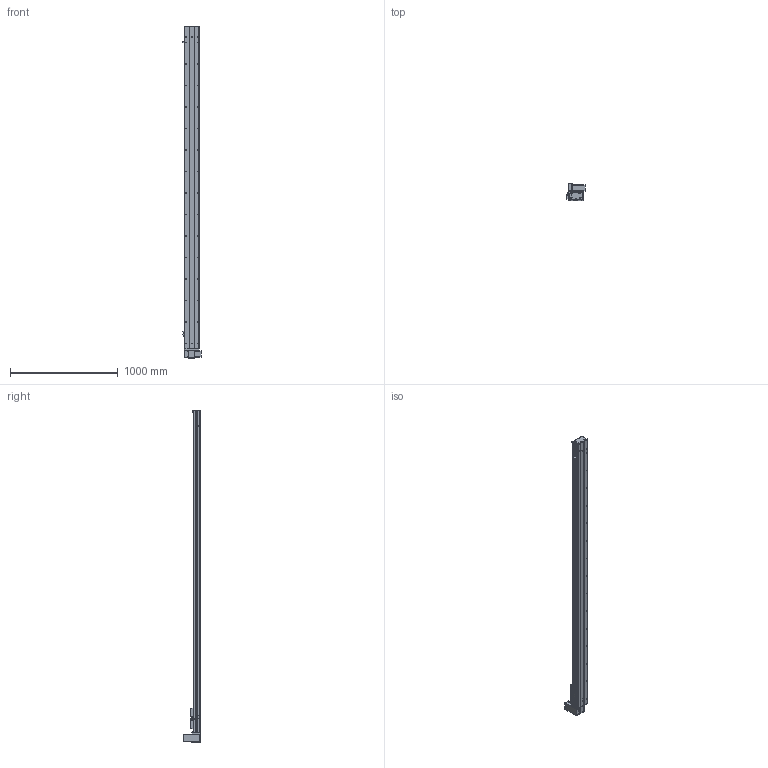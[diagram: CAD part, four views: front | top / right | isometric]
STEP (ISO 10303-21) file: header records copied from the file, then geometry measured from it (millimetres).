
FILE_DESCRIPTION (( 'STEP AP203' ), '1' );
FILE_NAME ('Y135CB-D90-S2700-UR-P400W.STEP', '2020-02-18T06:41:30', ( '微软用户' ), ( '微软中国' ), 'SwSTEP 2.0', 'SolidWorks 2017', '' );
FILE_SCHEMA (( 'CONFIG_CONTROL_DESIGN' ));
Length unit declared in the file: millimetre
Products named in the file (18): Y135CB-D90-S2700-UR-P400W; 135CB--詩湍-CE; 135CB---遴掛极.-; Y100-135俋离換覜ん--; 35CB---喘謫眊楊擘啣; Y135C-陔俋离換覜結え-; 0B-埴倛裔啣; 5C--俋欶; 0B-源倛裔啣; C-雄赽釱--; 0B-萇儂楊擘啣; Y10B--々湍喘謫眊--666; san松下电机400不带刹车----; Y10B-耜蚾蟀諉啣----; 5CB --掛极耜裔啣-; 00B-俋欶BM--; C-詩湍揤踡え-陔; Y135CB-耜裔
Assembly tree (21 placements, depth 2):
  Y135CB-D90-S2700-UR-P400W
    Y135CB-耜裔
    135CB---遴掛极.-
    35CB---喘謫眊楊擘啣
    0B-埴倛裔啣
    0B-源倛裔啣
    0B-萇儂楊擘啣
    san松下电机400不带刹车----
    5CB --掛极耜裔啣-  x2
    C-詩湍揤踡え-陔  x2
    135CB--詩湍-CE
    Y100-135俋离換覜ん--  x3
    Y135C-陔俋离換覜結え-
    5C--俋欶
    C-雄赽釱--
    Y10B--々湍喘謫眊--666
    Y10B-耜蚾蟀諉啣----
    00B-俋欶BM--
Bounding box: 167.5 x 158.7 x 3088 mm (x, y, z)
Volume: 8801087.9 mm3; surface area: 3488559.6 mm2
Topology: 21 solids, 21 shells, 981 faces, 2689 edges, 1782 vertices
Faces by surface type: cylinder 509, plane 456, cone 16
Entity records: 31167 total; most frequent: CARTESIAN_POINT 5208, DIRECTION 5181, ORIENTED_EDGE 4854, EDGE_CURVE 2427, AXIS2_PLACEMENT_3D 1903, VERTEX_POINT 1610, VECTOR 1375, LINE 1375
